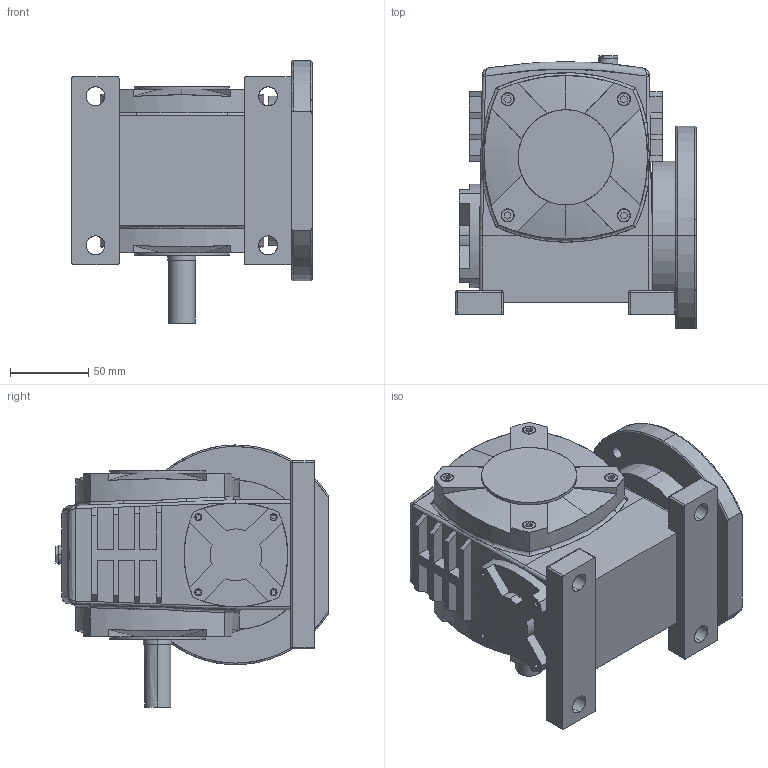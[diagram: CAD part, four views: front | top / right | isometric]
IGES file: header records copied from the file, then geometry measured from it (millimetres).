
Start section: SolidWorks IGES file using analytic representation for surfaces
Global section: file name: F:\3D芞祧\眒俇傖\WPDA50.IGS; native system: SolidWorks 2014; preprocessor: SolidWorks 2014; author: xing; date: 161023.112954; units: millimetre
Bounding box: 153 x 173.5 x 167 mm (x, y, z)
Surface area: 161939 mm2 (no closed solid volume)
Topology: 0 solids, 0 shells, 1158 faces, 12242 edges, 12234 vertices
Faces by surface type: bspline 957, revolution 201
